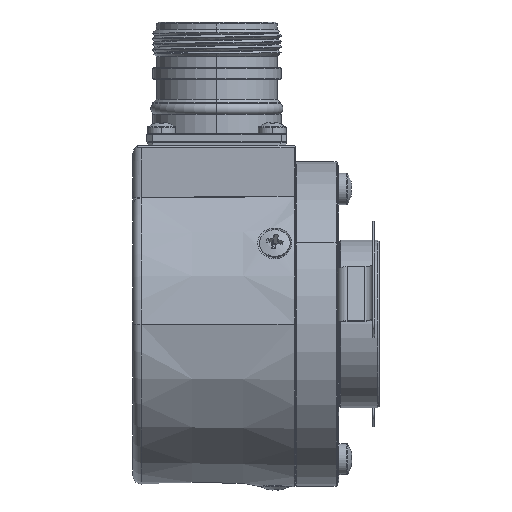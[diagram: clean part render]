
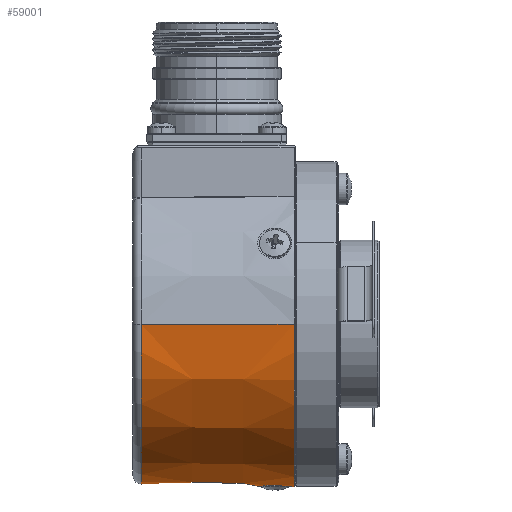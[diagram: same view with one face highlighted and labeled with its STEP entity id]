
A CAD part, left-side view. The second image highlights one B-rep face of the part: STEP entity #59001.
In plain terms, the highlighted conical face has half-angle 1 degrees and reference radius 28.565 mm.
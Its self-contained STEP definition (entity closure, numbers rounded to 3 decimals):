
#143 = CARTESIAN_POINT ( 'NONE',  ( -3.166, 3.446, -28.838 ) ) ;
#243 = CARTESIAN_POINT ( 'NONE',  ( 3.06, 4.481, -28.831 ) ) ;
#2327 = VERTEX_POINT ( 'NONE', #21656 ) ;
#4012 = ORIENTED_EDGE ( 'NONE', *, *, #15623, .F. ) ;
#4059 = CARTESIAN_POINT ( 'NONE',  ( -0.387, 0.668, -29.058 ) ) ;
#4130 = CARTESIAN_POINT ( 'NONE',  ( -29.068, 0.197, 0. ) ) ;
#4674 = AXIS2_PLACEMENT_3D ( 'NONE', #40710, #63059, #56807 ) ;
#5406 = CARTESIAN_POINT ( 'NONE',  ( 1.953, 1.286, -28.984 ) ) ;
#5615 = ORIENTED_EDGE ( 'NONE', *, *, #18110, .T. ) ;
#5657 = CARTESIAN_POINT ( 'NONE',  ( -2.536, 5.495, -28.864 ) ) ;
#6328 = CARTESIAN_POINT ( 'NONE',  ( -3.059, 2.863, -28.86 ) ) ;
#6884 = CIRCLE ( 'NONE', #4674, 29.068 ) ;
#8311 = CARTESIAN_POINT ( 'NONE',  ( -28.565, 29., 0. ) ) ;
#9209 = CARTESIAN_POINT ( 'NONE',  ( 2.113, 1.413, -28.97 ) ) ;
#9543 = CARTESIAN_POINT ( 'NONE',  ( 1.439, 0.952, -29.021 ) ) ;
#9795 = VECTOR ( 'NONE', #43333, 1000. ) ;
#9873 = CARTESIAN_POINT ( 'NONE',  ( 1.738, 6.2, -28.911 ) ) ;
#10792 = CARTESIAN_POINT ( 'NONE',  ( -1.737, 1.146, -28.999 ) ) ;
#11135 = CARTESIAN_POINT ( 'NONE',  ( -0.851, 6.591, -28.944 ) ) ;
#11141 = VERTEX_POINT ( 'NONE', #25620 ) ;
#11481 = CARTESIAN_POINT ( 'NONE',  ( -1.048, 6.532, -28.939 ) ) ;
#11787 = CARTESIAN_POINT ( 'NONE',  ( 28.565, 29., 0. ) ) ;
#14326 = CARTESIAN_POINT ( 'NONE',  ( -1.737, 1.146, -28.999 ) ) ;
#15002 = CARTESIAN_POINT ( 'NONE',  ( 2.999, 4.668, -28.834 ) ) ;
#15339 = CARTESIAN_POINT ( 'NONE',  ( 3.189, 3.494, -28.834 ) ) ;
#15623 = EDGE_CURVE ( 'NONE', #11141, #35964, #34335, .T. ) ;
#15686 = CARTESIAN_POINT ( 'NONE',  ( 2.837, 5.033, -28.844 ) ) ;
#15794 = EDGE_CURVE ( 'NONE', #11141, #2327, #64368, .T. ) ;
#16923 = CARTESIAN_POINT ( 'NONE',  ( -1.613, 6.282, -28.917 ) ) ;
#18110 = EDGE_CURVE ( 'NONE', #66410, #30482, #55948, .T. ) ;
#19792 = CARTESIAN_POINT ( 'NONE',  ( 2.404, 1.696, -28.942 ) ) ;
#20139 = CARTESIAN_POINT ( 'NONE',  ( 2.737, 5.208, -28.851 ) ) ;
#20814 = CARTESIAN_POINT ( 'NONE',  ( 1.913, 6.091, -28.902 ) ) ;
#21389 = CARTESIAN_POINT ( 'NONE',  ( -2.997, 2.673, -28.87 ) ) ;
#21656 = CARTESIAN_POINT ( 'NONE',  ( 28.591, 27.526, 0. ) ) ;
#22400 = CARTESIAN_POINT ( 'NONE',  ( -0.24, 6.713, -28.956 ) ) ;
#22466 = CARTESIAN_POINT ( 'NONE',  ( 0., 29., 0. ) ) ;
#22647 = AXIS2_PLACEMENT_3D ( 'NONE', #44248, #48414, #54844 ) ;
#24945 = CARTESIAN_POINT ( 'NONE',  ( 2.761, 2.178, -28.902 ) ) ;
#25620 = CARTESIAN_POINT ( 'NONE',  ( -28.591, 27.526, 0. ) ) ;
#25627 = CARTESIAN_POINT ( 'NONE',  ( -0.181, 0.65, -29.06 ) ) ;
#26209 = CARTESIAN_POINT ( 'NONE',  ( 29.068, 0.197, 0. ) ) ;
#26218 = CARTESIAN_POINT ( 'NONE',  ( -2.385, 1.646, -28.945 ) ) ;
#26732 = B_SPLINE_CURVE_WITH_KNOTS ( 'NONE', 3,
 ( #14326, #56511, #52384, #62408, #62754, #4059, #25627, #56171, #67217, #62066, #9543, #5406, #9209, #19792, #47277, #24945, #46596, #40758, #46931, #15339, #41758, #243, #15002, #15686, #20139, #36286, #30068, #51036, #20814, #9873 ),
 .UNSPECIFIED., .F., .F.,
 ( 4, 2, 2, 2, 2, 2, 2, 2, 2, 2, 2, 2, 2, 2, 4 ),
 ( 0.998, 1.029, 1.06, 1.092, 1.123, 1.185, 1.217, 1.248, 1.279, 1.31, 1.373, 1.404, 1.435, 1.467, 1.498 ),
 .UNSPECIFIED. ) ;
#27180 = CARTESIAN_POINT ( 'NONE',  ( -1.737, 1.146, -28.999 ) ) ;
#27212 = CARTESIAN_POINT ( 'NONE',  ( -3.144, 3.25, -28.844 ) ) ;
#27600 = FACE_OUTER_BOUND ( 'NONE', #29906, .T. ) ;
#28736 = CARTESIAN_POINT ( 'NONE',  ( 1.738, 6.2, -28.911 ) ) ;
#29906 = EDGE_LOOP ( 'NONE', ( #65363, #34674, #30922, #4012 ) ) ;
#30068 = CARTESIAN_POINT ( 'NONE',  ( 2.371, 5.688, -28.875 ) ) ;
#30482 = VERTEX_POINT ( 'NONE', #27180 ) ;
#30922 = ORIENTED_EDGE ( 'NONE', *, *, #41401, .T. ) ;
#31658 = CARTESIAN_POINT ( 'NONE',  ( -2.735, 2.136, -28.905 ) ) ;
#32185 = VERTEX_POINT ( 'NONE', #26209 ) ;
#34335 = LINE ( 'NONE', #8311, #39662 ) ;
#34674 = ORIENTED_EDGE ( 'NONE', *, *, #48967, .T. ) ;
#35846 = CARTESIAN_POINT ( 'NONE',  ( 1.389, 6.418, -28.928 ) ) ;
#35964 = VERTEX_POINT ( 'NONE', #4130 ) ;
#36286 = CARTESIAN_POINT ( 'NONE',  ( 2.503, 5.537, -28.866 ) ) ;
#37001 = EDGE_CURVE ( 'NONE', #30482, #66410, #26732, .T. ) ;
#37188 = CARTESIAN_POINT ( 'NONE',  ( 0.183, 6.716, -28.956 ) ) ;
#37538 = CARTESIAN_POINT ( 'NONE',  ( -3.151, 4.041, -28.829 ) ) ;
#39662 = VECTOR ( 'NONE', #50147, 1000. ) ;
#40354 = CONICAL_SURFACE ( 'NONE', #56789, 28.565, 0.017 ) ;
#40710 = CARTESIAN_POINT ( 'NONE',  ( 0., 0.197, 0. ) ) ;
#40758 = CARTESIAN_POINT ( 'NONE',  ( 3.014, 2.723, -28.867 ) ) ;
#40993 = CARTESIAN_POINT ( 'NONE',  ( 1.738, 6.2, -28.911 ) ) ;
#41401 = EDGE_CURVE ( 'NONE', #32185, #35964, #6884, .T. ) ;
#41758 = CARTESIAN_POINT ( 'NONE',  ( 3.187, 3.897, -28.828 ) ) ;
#42679 = CARTESIAN_POINT ( 'NONE',  ( -2.879, 4.997, -28.842 ) ) ;
#42995 = CARTESIAN_POINT ( 'NONE',  ( -3.17, 3.843, -28.83 ) ) ;
#43333 = DIRECTION ( 'NONE',  ( 0.017, -1., 0. ) ) ;
#43884 = ORIENTED_EDGE ( 'NONE', *, *, #37001, .T. ) ;
#44248 = CARTESIAN_POINT ( 'NONE',  ( 0., 27.526, 0. ) ) ;
#46126 = DIRECTION ( 'NONE',  ( -1., 0., 0. ) ) ;
#46596 = CARTESIAN_POINT ( 'NONE',  ( 2.858, 2.355, -28.889 ) ) ;
#46931 = CARTESIAN_POINT ( 'NONE',  ( 3.073, 2.911, -28.857 ) ) ;
#47178 = CARTESIAN_POINT ( 'NONE',  ( -2.834, 2.308, -28.892 ) ) ;
#47277 = CARTESIAN_POINT ( 'NONE',  ( 2.534, 1.849, -28.928 ) ) ;
#47531 = CARTESIAN_POINT ( 'NONE',  ( -2.405, 5.65, -28.873 ) ) ;
#47870 = CARTESIAN_POINT ( 'NONE',  ( -2.115, 5.932, -28.891 ) ) ;
#48200 = CARTESIAN_POINT ( 'NONE',  ( -2.085, 1.364, -28.975 ) ) ;
#48414 = DIRECTION ( 'NONE',  ( 0., -1., 0. ) ) ;
#48524 = CARTESIAN_POINT ( 'NONE',  ( -1.957, 6.058, -28.9 ) ) ;
#48967 = EDGE_CURVE ( 'NONE', #2327, #32185, #58112, .T. ) ;
#49576 = FACE_BOUND ( 'NONE', #57779, .T. ) ;
#50147 = DIRECTION ( 'NONE',  ( -0.017, -1., 0. ) ) ;
#51036 = CARTESIAN_POINT ( 'NONE',  ( 2.076, 5.965, -28.893 ) ) ;
#52384 = CARTESIAN_POINT ( 'NONE',  ( -1.381, 0.946, -29.022 ) ) ;
#54844 = DIRECTION ( 'NONE',  ( 1., 0., 0. ) ) ;
#55948 = B_SPLINE_CURVE_WITH_KNOTS ( 'NONE', 3,
 ( #40993, #35846, #64017, #37188, #22400, #11135, #11481, #57793, #16923, #48524, #47870, #47531, #5657, #42679, #63675, #37538, #42995, #143, #27212, #6328, #21389, #47178, #31658, #26218, #48200, #10792 ),
 .UNSPECIFIED., .F., .F.,
 ( 4, 2, 2, 2, 2, 2, 2, 2, 2, 2, 2, 2, 4 ),
 ( 0.498, 0.56, 0.623, 0.654, 0.685, 0.717, 0.748, 0.81, 0.842, 0.873, 0.904, 0.935, 0.998 ),
 .UNSPECIFIED. ) ;
#56171 = CARTESIAN_POINT ( 'NONE',  ( 0.233, 0.653, -29.06 ) ) ;
#56511 = CARTESIAN_POINT ( 'NONE',  ( -1.563, 1.038, -29.012 ) ) ;
#56789 = AXIS2_PLACEMENT_3D ( 'NONE', #22466, #61261, #46126 ) ;
#56807 = DIRECTION ( 'NONE',  ( 1., 0., 0. ) ) ;
#57779 = EDGE_LOOP ( 'NONE', ( #43884, #5615 ) ) ;
#57793 = CARTESIAN_POINT ( 'NONE',  ( -1.43, 6.377, -28.925 ) ) ;
#58112 = LINE ( 'NONE', #11787, #9795 ) ;
#59001 = ADVANCED_FACE ( 'NONE', ( #49576, #27600 ), #40354, .T. ) ;
#61261 = DIRECTION ( 'NONE',  ( 0., -1., 0. ) ) ;
#62066 = CARTESIAN_POINT ( 'NONE',  ( 1.053, 0.796, -29.041 ) ) ;
#62408 = CARTESIAN_POINT ( 'NONE',  ( -0.997, 0.798, -29.041 ) ) ;
#62754 = CARTESIAN_POINT ( 'NONE',  ( -0.796, 0.742, -29.048 ) ) ;
#63059 = DIRECTION ( 'NONE',  ( 0., 1., 0. ) ) ;
#63675 = CARTESIAN_POINT ( 'NONE',  ( -3.036, 4.625, -28.831 ) ) ;
#64017 = CARTESIAN_POINT ( 'NONE',  ( 0.998, 6.569, -28.942 ) ) ;
#64368 = CIRCLE ( 'NONE', #22647, 28.591 ) ;
#65363 = ORIENTED_EDGE ( 'NONE', *, *, #15794, .T. ) ;
#66410 = VERTEX_POINT ( 'NONE', #28736 ) ;
#67217 = CARTESIAN_POINT ( 'NONE',  ( 0.441, 0.674, -29.057 ) ) ;
